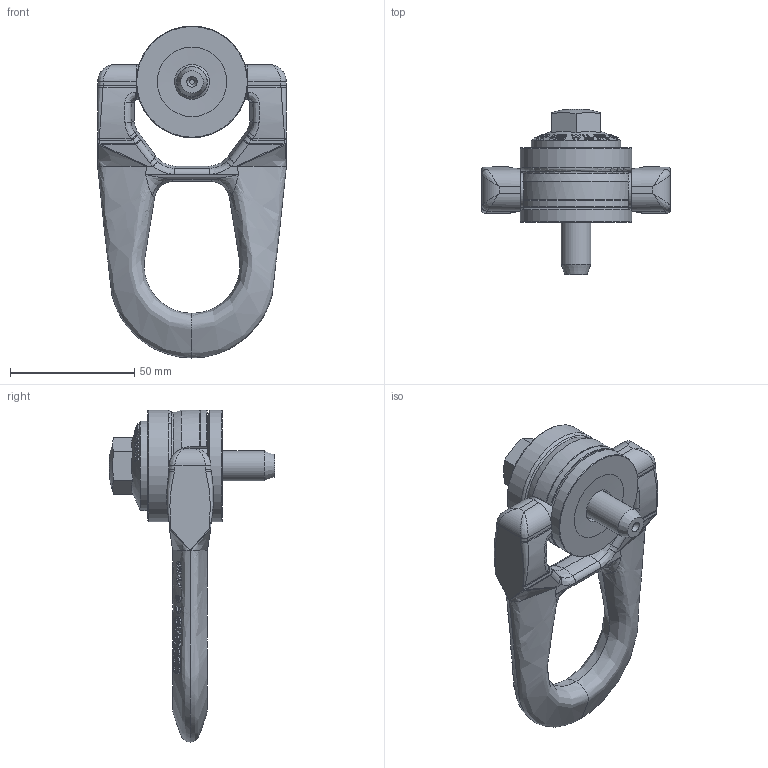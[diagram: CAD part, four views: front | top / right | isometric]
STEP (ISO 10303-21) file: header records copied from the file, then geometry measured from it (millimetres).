
FILE_DESCRIPTION(/* description */ (''),/* implementation_level */ '2;1');
FILE_NAME(/* name */ 'DSR M12 1t2 UP.stp',/* time_stamp */ '2026-09-11T11:37:03+02:00',/* author */ ('bgregoire'),/* organization */ (''),/* preprocessor_version */ 'ST-DEVELOPER v20.1',/* originating_system */ 'Autodesk Inventor 2026',/* authorisation */ '');
FILE_SCHEMA (('AUTOMOTIVE_DESIGN { 1 0 10303 214 3 1 1 }'));
Length unit declared in the file: millimetre
Products named in the file (6): DSR M14 UP; DSR 2; DRB_B2B; DRM_AF2B_UP; DRA_M14X53_UP; DRE_D2M14A
Assembly tree (5 placements, depth 3):
  DSR M14 UP
    DSR 2
      DRB_B2B
      DRM_AF2B_UP
    DRA_M14X53_UP
    DRE_D2M14A
Bounding box: 76 x 66.48 x 133.75 mm (x, y, z)
Volume: 109884 mm3; surface area: 35625.3 mm2
Topology: 4 solids, 4 shells, 799 faces, 2101 edges, 1339 vertices
Faces by surface type: plane 366, bspline 295, cylinder 84, cone 42, torus 11, sphere 1
Full cylindrical faces by diameter (mm): 2 x1, 12 x1, 14 x5, 14.2 x1, 22.6 x2, 23 x2, 32 x1, 36 x1, 45 x2
Entity records: 44789 total; most frequent: CARTESIAN_POINT 28352, ORIENTED_EDGE 4176, DIRECTION 2110, EDGE_CURVE 2088, VERTEX_POINT 1339, B_SPLINE_CURVE_WITH_KNOTS 895, EDGE_LOOP 847, FACE_OUTER_BOUND 799
